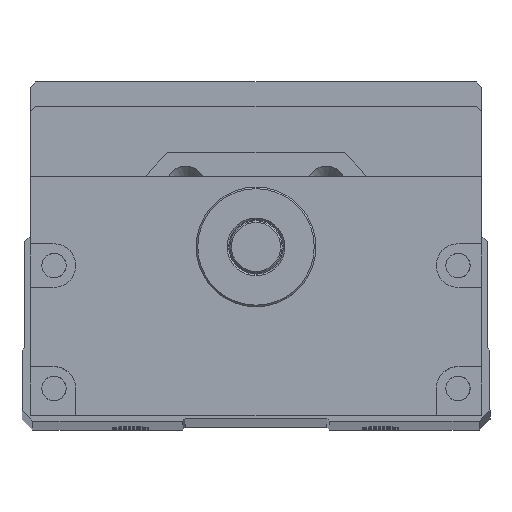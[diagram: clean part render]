
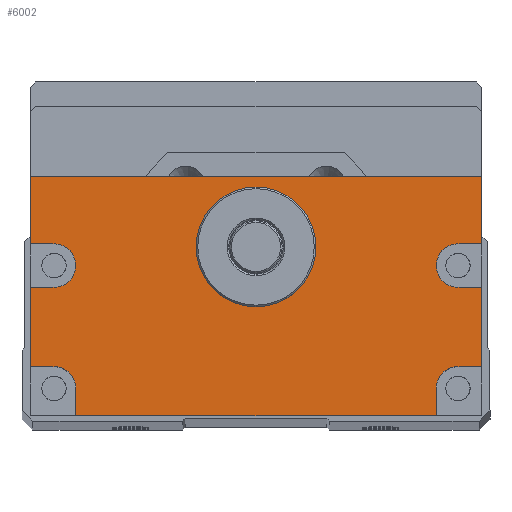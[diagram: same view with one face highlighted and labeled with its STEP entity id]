
A CAD part, top view. The second image highlights one B-rep face of the part: STEP entity #6002.
In plain terms, the highlighted planar face has unit normal (0, 0, 1).
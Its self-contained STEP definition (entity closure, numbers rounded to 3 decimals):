
#6002=ADVANCED_FACE('',(#8376,#8377),#6524,.T.);
#6524=PLANE('',#15963);
#6931=LINE('',#29189,#7656);
#6933=LINE('',#29193,#7658);
#6934=LINE('',#29196,#7659);
#6935=LINE('',#29198,#7660);
#6936=LINE('',#29202,#7661);
#6937=LINE('',#29204,#7662);
#6938=LINE('',#29205,#7663);
#6939=LINE('',#29207,#7664);
#6940=LINE('',#29211,#7665);
#6941=LINE('',#29213,#7666);
#6942=LINE('',#29215,#7667);
#6943=LINE('',#29219,#7668);
#6944=LINE('',#29221,#7669);
#6945=LINE('',#29223,#7670);
#7656=VECTOR('',#17537,1.);
#7658=VECTOR('',#17541,1.);
#7659=VECTOR('',#17542,1.);
#7660=VECTOR('',#17543,1.);
#7661=VECTOR('',#17546,1.);
#7662=VECTOR('',#17547,1.);
#7663=VECTOR('',#17548,1.);
#7664=VECTOR('',#17549,1.);
#7665=VECTOR('',#17552,1.);
#7666=VECTOR('',#17553,1.);
#7667=VECTOR('',#17554,1.);
#7668=VECTOR('',#17557,1.);
#7669=VECTOR('',#17558,1.);
#7670=VECTOR('',#17559,1.);
#8376=FACE_BOUND('',#9011,.T.);
#8377=FACE_BOUND('',#9012,.T.);
#9011=EDGE_LOOP('',(#10563,#10564,#10565,#10566,#10567,#10568,#10569,#10570,
#10571,#10572,#10573,#10574,#10575,#10576,#10577,#10578,#10579,#10580));
#9012=EDGE_LOOP('',(#10581));
#10563=ORIENTED_EDGE('',*,*,#14154,.F.);
#10564=ORIENTED_EDGE('',*,*,#14155,.T.);
#10565=ORIENTED_EDGE('',*,*,#14156,.F.);
#10566=ORIENTED_EDGE('',*,*,#14157,.F.);
#10567=ORIENTED_EDGE('',*,*,#14158,.F.);
#10568=ORIENTED_EDGE('',*,*,#14159,.T.);
#10569=ORIENTED_EDGE('',*,*,#14152,.T.);
#10570=ORIENTED_EDGE('',*,*,#14160,.T.);
#10571=ORIENTED_EDGE('',*,*,#14161,.F.);
#10572=ORIENTED_EDGE('',*,*,#14162,.F.);
#10573=ORIENTED_EDGE('',*,*,#14163,.F.);
#10574=ORIENTED_EDGE('',*,*,#14164,.T.);
#10575=ORIENTED_EDGE('',*,*,#14165,.F.);
#10576=ORIENTED_EDGE('',*,*,#14166,.F.);
#10577=ORIENTED_EDGE('',*,*,#14167,.F.);
#10578=ORIENTED_EDGE('',*,*,#14168,.T.);
#10579=ORIENTED_EDGE('',*,*,#14169,.F.);
#10580=ORIENTED_EDGE('',*,*,#14170,.F.);
#10581=ORIENTED_EDGE('',*,*,#14138,.T.);
#12949=VERTEX_POINT('',#29160);
#12962=VERTEX_POINT('',#29188);
#12963=VERTEX_POINT('',#29190);
#12964=VERTEX_POINT('',#29194);
#12965=VERTEX_POINT('',#29195);
#12966=VERTEX_POINT('',#29197);
#12967=VERTEX_POINT('',#29199);
#12968=VERTEX_POINT('',#29201);
#12969=VERTEX_POINT('',#29203);
#12970=VERTEX_POINT('',#29206);
#12971=VERTEX_POINT('',#29208);
#12972=VERTEX_POINT('',#29210);
#12973=VERTEX_POINT('',#29212);
#12974=VERTEX_POINT('',#29214);
#12975=VERTEX_POINT('',#29216);
#12976=VERTEX_POINT('',#29218);
#12977=VERTEX_POINT('',#29220);
#12978=VERTEX_POINT('',#29222);
#12979=VERTEX_POINT('',#29224);
#14138=EDGE_CURVE('',#12949,#12949,#15320,.T.);
#14152=EDGE_CURVE('',#12963,#12962,#6931,.T.);
#14154=EDGE_CURVE('',#12964,#12965,#6933,.T.);
#14155=EDGE_CURVE('',#12964,#12966,#6934,.T.);
#14156=EDGE_CURVE('',#12967,#12966,#6935,.T.);
#14157=EDGE_CURVE('',#12968,#12967,#15329,.T.);
#14158=EDGE_CURVE('',#12969,#12968,#6936,.T.);
#14159=EDGE_CURVE('',#12969,#12963,#6937,.T.);
#14160=EDGE_CURVE('',#12962,#12970,#6938,.T.);
#14161=EDGE_CURVE('',#12971,#12970,#6939,.T.);
#14162=EDGE_CURVE('',#12972,#12971,#15330,.T.);
#14163=EDGE_CURVE('',#12973,#12972,#6940,.T.);
#14164=EDGE_CURVE('',#12973,#12974,#6941,.T.);
#14165=EDGE_CURVE('',#12975,#12974,#6942,.T.);
#14166=EDGE_CURVE('',#12976,#12975,#15331,.T.);
#14167=EDGE_CURVE('',#12977,#12976,#6943,.T.);
#14168=EDGE_CURVE('',#12977,#12978,#6944,.T.);
#14169=EDGE_CURVE('',#12979,#12978,#6945,.T.);
#14170=EDGE_CURVE('',#12965,#12979,#15332,.T.);
#15320=CIRCLE('',#15947,11.);
#15329=CIRCLE('',#15959,4.);
#15330=CIRCLE('',#15960,4.);
#15331=CIRCLE('',#15961,4.);
#15332=CIRCLE('',#15962,4.);
#15947=AXIS2_PLACEMENT_3D('',#29159,#17510,#17511);
#15959=AXIS2_PLACEMENT_3D('',#29200,#17544,#17545);
#15960=AXIS2_PLACEMENT_3D('',#29209,#17550,#17551);
#15961=AXIS2_PLACEMENT_3D('',#29217,#17555,#17556);
#15962=AXIS2_PLACEMENT_3D('',#29225,#17560,#17561);
#15963=AXIS2_PLACEMENT_3D('',#29226,#17562,#17563);
#17510=DIRECTION('',(0.,0.,-1.));
#17511=DIRECTION('',(1.,0.,0.));
#17537=DIRECTION('',(-1.,0.,0.));
#17541=DIRECTION('',(-1.,0.,0.));
#17542=DIRECTION('',(0.,1.,0.));
#17543=DIRECTION('',(1.,0.,0.));
#17544=DIRECTION('',(0.,0.,1.));
#17545=DIRECTION('',(1.,0.,0.));
#17546=DIRECTION('',(-1.,0.,0.));
#17547=DIRECTION('',(0.,1.,0.));
#17548=DIRECTION('',(0.,-1.,0.));
#17549=DIRECTION('',(-1.,0.,0.));
#17550=DIRECTION('',(0.,0.,1.));
#17551=DIRECTION('',(1.,0.,0.));
#17552=DIRECTION('',(1.,0.,0.));
#17553=DIRECTION('',(0.,-1.,0.));
#17554=DIRECTION('',(-1.,0.,0.));
#17555=DIRECTION('',(0.,0.,1.));
#17556=DIRECTION('',(1.,0.,0.));
#17557=DIRECTION('',(0.,1.,0.));
#17558=DIRECTION('',(1.,0.,0.));
#17559=DIRECTION('',(0.,-1.,0.));
#17560=DIRECTION('',(0.,0.,1.));
#17561=DIRECTION('',(1.,0.,0.));
#17562=DIRECTION('',(0.,0.,1.));
#17563=DIRECTION('',(1.,0.,0.));
#29159=CARTESIAN_POINT('',(0.,0.,782.5));
#29160=CARTESIAN_POINT('',(11.,0.,782.5));
#29188=CARTESIAN_POINT('',(-41.5,13.,782.5));
#29189=CARTESIAN_POINT('',(41.5,13.,782.5));
#29190=CARTESIAN_POINT('',(41.5,13.,782.5));
#29193=CARTESIAN_POINT('',(41.5,-22.,782.5));
#29194=CARTESIAN_POINT('',(41.5,-22.,782.5));
#29195=CARTESIAN_POINT('',(37.115,-22.,782.5));
#29196=CARTESIAN_POINT('',(41.5,-31.,782.5));
#29197=CARTESIAN_POINT('',(41.5,-7.431,782.5));
#29198=CARTESIAN_POINT('',(41.5,-7.431,782.5));
#29199=CARTESIAN_POINT('',(37.115,-7.431,782.5));
#29200=CARTESIAN_POINT('',(37.115,-3.431,782.5));
#29201=CARTESIAN_POINT('',(37.115,0.569,782.5));
#29202=CARTESIAN_POINT('',(41.5,0.569,782.5));
#29203=CARTESIAN_POINT('',(41.5,0.569,782.5));
#29204=CARTESIAN_POINT('',(41.5,-31.,782.5));
#29205=CARTESIAN_POINT('',(-41.5,27.5,782.5));
#29206=CARTESIAN_POINT('',(-41.5,0.569,782.5));
#29207=CARTESIAN_POINT('',(41.5,0.569,782.5));
#29208=CARTESIAN_POINT('',(-37.115,0.569,782.5));
#29209=CARTESIAN_POINT('',(-37.115,-3.431,782.5));
#29210=CARTESIAN_POINT('',(-37.115,-7.431,782.5));
#29211=CARTESIAN_POINT('',(41.5,-7.431,782.5));
#29212=CARTESIAN_POINT('',(-41.5,-7.431,782.5));
#29213=CARTESIAN_POINT('',(-41.5,27.5,782.5));
#29214=CARTESIAN_POINT('',(-41.5,-22.,782.5));
#29215=CARTESIAN_POINT('',(41.5,-22.,782.5));
#29216=CARTESIAN_POINT('',(-37.115,-22.,782.5));
#29217=CARTESIAN_POINT('',(-37.115,-26.,782.5));
#29218=CARTESIAN_POINT('',(-33.115,-26.,782.5));
#29219=CARTESIAN_POINT('',(-33.115,-31.,782.5));
#29220=CARTESIAN_POINT('',(-33.115,-31.,782.5));
#29221=CARTESIAN_POINT('',(-41.5,-31.,782.5));
#29222=CARTESIAN_POINT('',(33.115,-31.,782.5));
#29223=CARTESIAN_POINT('',(33.115,-31.,782.5));
#29224=CARTESIAN_POINT('',(33.115,-26.,782.5));
#29225=CARTESIAN_POINT('',(37.115,-26.,782.5));
#29226=CARTESIAN_POINT('',(41.5,-31.,782.5));
